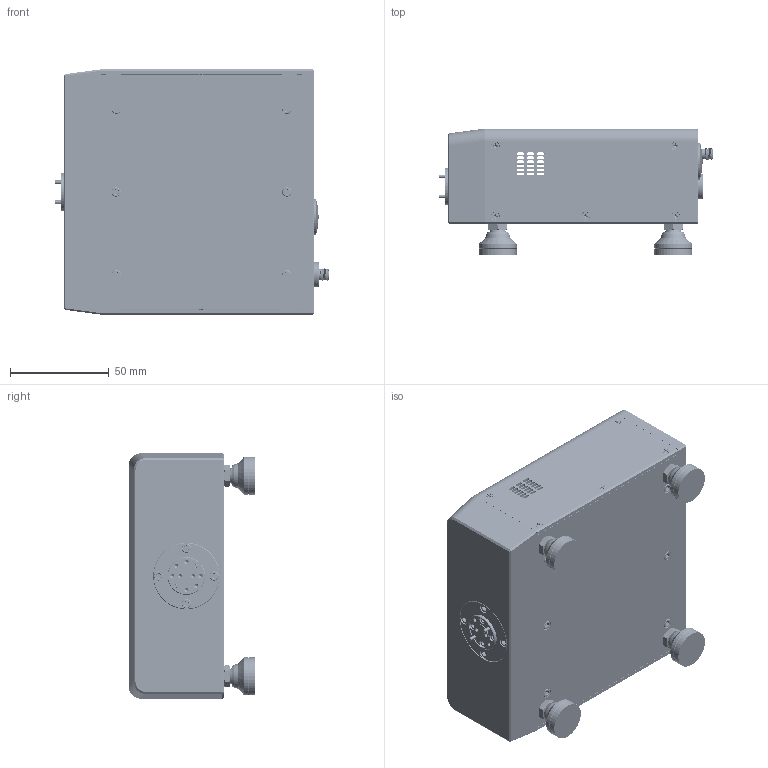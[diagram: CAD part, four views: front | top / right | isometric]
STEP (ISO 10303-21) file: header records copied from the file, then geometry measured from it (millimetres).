
FILE_DESCRIPTION (( 'STEP AP214' ), '1' );
FILE_NAME ('TC-D-A-IDP.STEP', '2026-01-02T22:26:07', ( '' ), ( '' ), 'SwSTEP 2.0', 'SolidWorks 2021', '' );
FILE_SCHEMA (( 'AUTOMOTIVE_DESIGN' ));
Length unit declared in the file: inch
Products named in the file (1): TC-D-A-IDP
Bounding box: 139.21 x 64.14 x 124.32 mm (x, y, z)
Volume: 282882.5 mm3; surface area: 147823.6 mm2
Topology: 48 solids, 48 shells, 3374 faces, 9090 edges, 5772 vertices
Faces by surface type: cylinder 1797, plane 870, cone 610, bspline 74, sphere 19, torus 4
Entity records: 199050 total; most frequent: CARTESIAN_POINT 78327, ORIENTED_EDGE 17740, DIRECTION 14190, EDGE_CURVE 8870, VERTEX_POINT 5747, AXIS2_PLACEMENT_3D 5248, EDGE_LOOP 3703, VECTOR 3694
